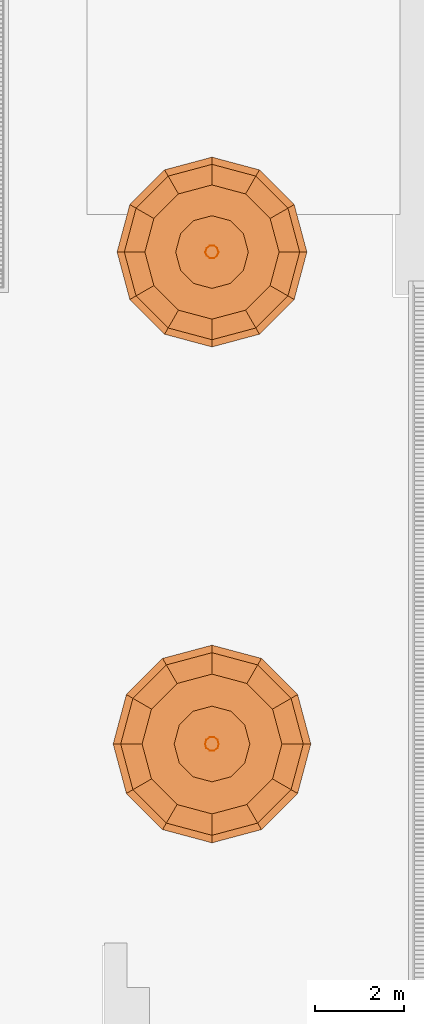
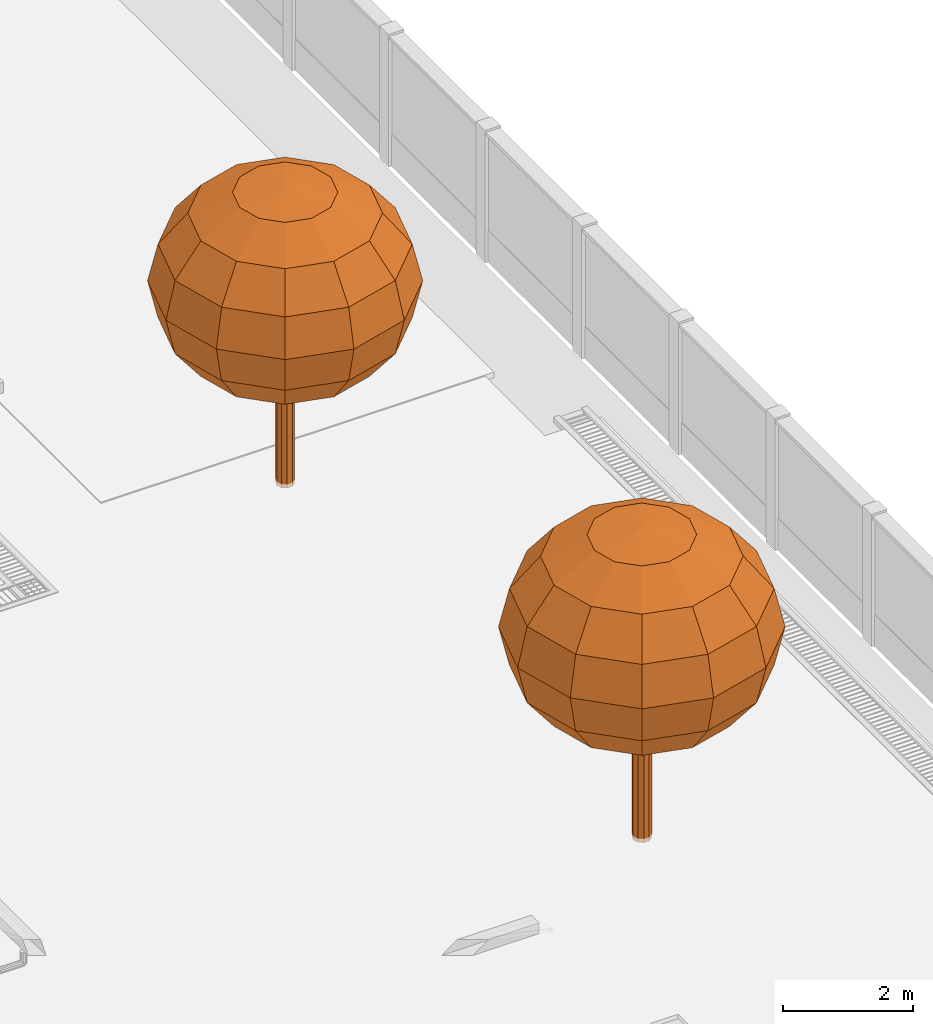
# One storey, part 155 of 166: 4 proxies.
"""IFC2X3 building model written with IfcOpenShell, lengths in metres."""

from ifc_helpers import new_model, si_unit, origin, origin_with_axes, place, context, subcontext, project, spatial, faceted_brep, element, save


model = new_model("IFC2X3")

# Units and contexts
model_context = context("Model", 3, precision=1e-05, world=origin_with_axes())
body_context = subcontext(model_context, "Body", "Model", "MODEL_VIEW")
ifc_project = project(units=[si_unit("LENGTHUNIT", "METRE"), si_unit("AREAUNIT", "SQUARE_METRE"), si_unit("VOLUMEUNIT", "CUBIC_METRE"), si_unit("PLANEANGLEUNIT", "RADIAN")], contexts=[model_context])

# Site, building, storey
site_placement = place(None, origin_with_axes())
site = spatial("IfcSite", under=ifc_project, at=site_placement, Name="Predio Los Mangos - Morales, San Martín", CompositionType="ELEMENT")
building_placement = place(site_placement, origin())
building = spatial("IfcBuilding", under=site, at=building_placement, Name="Hogar de Refugio Temporal", CompositionType="ELEMENT")
storey_placement = place(building_placement, origin())
storey = spatial("IfcBuildingStorey", under=building, at=storey_placement, Name="NIVEL 1 (NPT +0.00)", CompositionType="ELEMENT", Elevation=0.0)

# Proxies
proxy_1_placement = place(storey_placement, origin())
element("IfcBuildingElementProxy", 1, at=proxy_1_placement, inside=storey, Name="arbol_tronco", ObjectType="Árbol", context=body_context, shape_type="Brep", body=[
    faceted_brep([(66.1538, 45.0, 0.0), (66.1244, 45.0904, 0.0), (66.1244, 45.0904, 2.3063), (66.0475, 45.1462, 0.0), (66.0475, 45.1462, 2.3063), (65.9525, 45.1462, 0.0), (65.9525, 45.1462, 2.3063), (65.8756, 45.0904, 0.0), (65.8756, 45.0904, 2.3063), (65.8462, 45.0, 0.0), (65.8462, 45.0, 2.3063), (65.8756, 44.9096, 0.0), (65.8756, 44.9096, 2.3063), (65.9525, 44.8538, 0.0), (65.9525, 44.8538, 2.3063), (66.0475, 44.8538, 0.0), (66.0475, 44.8538, 2.3063), (66.1244, 44.9096, 0.0), (66.1244, 44.9096, 2.3063), (66.1538, 45.0, 2.3063)], [[[0, 1, 2]], [[1, 3, 4]], [[3, 5, 6]], [[5, 7, 8]], [[7, 9, 10]], [[9, 11, 12]], [[11, 13, 14]], [[13, 15, 16]], [[15, 17, 18]], [[17, 0, 19]], [[0, 2, 19]], [[1, 4, 2]], [[3, 6, 4]], [[5, 8, 6]], [[7, 10, 8]], [[9, 12, 10]], [[11, 14, 12]], [[13, 16, 14]], [[15, 18, 16]], [[17, 19, 18]]]),
])
proxy_2_placement = place(storey_placement, origin())
element("IfcBuildingElementProxy", 2, at=proxy_2_placement, inside=storey, Name="arbol_copa", ObjectType="Árbol", context=body_context, shape_type="Brep", body=[
    faceted_brep([(66.0, 45.0, 5.8426), (66.0, 45.0, 5.8426), (66.7325, 45.4229, 5.6996), (66.8458, 45.0, 5.6996), (66.0, 45.0, 5.8426), (66.4229, 45.7325, 5.6996), (66.0, 45.0, 5.8426), (66.0, 45.8458, 5.6996), (66.0, 45.0, 5.8426), (65.5771, 45.7325, 5.6996), (66.0, 45.0, 5.8426), (65.2675, 45.4229, 5.6996), (66.0, 45.0, 5.8426), (65.1542, 45.0, 5.6996), (66.0, 45.0, 5.8426), (65.2675, 44.5771, 5.6996), (66.0, 45.0, 5.8426), (65.5771, 44.2675, 5.6996), (66.0, 45.0, 5.8426), (66.0, 44.1542, 5.6996), (66.0, 45.0, 5.8426), (66.4229, 44.2675, 5.6996), (66.0, 45.0, 5.8426), (66.7325, 44.5771, 5.6996), (67.3535, 45.7814, 5.2923), (67.5628, 45.0, 5.2923), (66.7814, 46.3535, 5.2923), (66.0, 46.5628, 5.2923), (65.2186, 46.3535, 5.2923), (64.6465, 45.7814, 5.2923), (64.4372, 45.0, 5.2923), (64.6465, 44.2186, 5.2923), (65.2186, 43.6465, 5.2923), (66.0, 43.4372, 5.2923), (66.7814, 43.6465, 5.2923), (67.3535, 44.2186, 5.2923), (67.7684, 46.021, 4.6829), (68.0419, 45.0, 4.6829), (67.021, 46.7684, 4.6829), (66.0, 47.0419, 4.6829), (64.979, 46.7684, 4.6829), (64.2316, 46.021, 4.6829), (63.9581, 45.0, 4.6829), (64.2316, 43.979, 4.6829), (64.979, 43.2316, 4.6829), (66.0, 42.9581, 4.6829), (67.021, 43.2316, 4.6829), (67.7684, 43.979, 4.6829), (67.9141, 46.1051, 3.9639), (68.2102, 45.0, 3.9639), (67.1051, 46.9141, 3.9639), (66.0, 47.2102, 3.9639), (64.8949, 46.9141, 3.9639), (64.0859, 46.1051, 3.9639), (63.7898, 45.0, 3.9639), (64.0859, 43.8949, 3.9639), (64.8949, 43.0859, 3.9639), (66.0, 42.7898, 3.9639), (67.1051, 43.0859, 3.9639), (67.9141, 43.8949, 3.9639), (67.7684, 46.021, 3.245), (68.0419, 45.0, 3.245), (67.021, 46.7684, 3.245), (66.0, 47.0419, 3.245), (64.979, 46.7684, 3.245), (64.2316, 46.021, 3.245), (63.9581, 45.0, 3.245), (64.2316, 43.979, 3.245), (64.979, 43.2316, 3.245), (66.0, 42.9581, 3.245), (67.021, 43.2316, 3.245), (67.7684, 43.979, 3.245), (67.3535, 45.7814, 2.6355), (67.5628, 45.0, 2.6355), (66.7814, 46.3535, 2.6355), (66.0, 46.5628, 2.6355), (65.2186, 46.3535, 2.6355), (64.6465, 45.7814, 2.6355), (64.4372, 45.0, 2.6355), (64.6465, 44.2186, 2.6355), (65.2186, 43.6465, 2.6355), (66.0, 43.4372, 2.6355), (66.7814, 43.6465, 2.6355), (67.3535, 44.2186, 2.6355), (66.7325, 45.4229, 2.2283), (66.8458, 45.0, 2.2283), (66.4229, 45.7325, 2.2283), (66.0, 45.8458, 2.2283), (65.5771, 45.7325, 2.2283), (65.2675, 45.4229, 2.2283), (65.1542, 45.0, 2.2283), (65.2675, 44.5771, 2.2283), (65.5771, 44.2675, 2.2283), (66.0, 44.1542, 2.2283), (66.4229, 44.2675, 2.2283), (66.7325, 44.5771, 2.2283), (66.0, 45.0, 2.0853), (66.0, 45.0, 2.0853), (66.0, 45.0, 2.0853), (66.0, 45.0, 2.0853), (66.0, 45.0, 2.0853), (66.0, 45.0, 2.0853), (66.0, 45.0, 2.0853), (66.0, 45.0, 2.0853), (66.0, 45.0, 2.0853), (66.0, 45.0, 2.0853), (66.0, 45.0, 2.0853), (66.0, 45.0, 2.0853)], [[[0, 1, 2]], [[0, 2, 3]], [[1, 4, 5]], [[1, 5, 2]], [[4, 6, 7]], [[4, 7, 5]], [[6, 8, 9]], [[6, 9, 7]], [[8, 10, 11]], [[8, 11, 9]], [[10, 12, 13]], [[10, 13, 11]], [[12, 14, 15]], [[12, 15, 13]], [[14, 16, 17]], [[14, 17, 15]], [[16, 18, 19]], [[16, 19, 17]], [[18, 20, 21]], [[18, 21, 19]], [[20, 22, 23]], [[20, 23, 21]], [[22, 0, 3]], [[22, 3, 23]], [[3, 2, 24]], [[3, 24, 25]], [[2, 5, 26]], [[2, 26, 24]], [[5, 7, 27]], [[5, 27, 26]], [[7, 9, 28]], [[7, 28, 27]], [[9, 11, 29]], [[9, 29, 28]], [[11, 13, 30]], [[11, 30, 29]], [[13, 15, 31]], [[13, 31, 30]], [[15, 17, 32]], [[15, 32, 31]], [[17, 19, 33]], [[17, 33, 32]], [[19, 21, 34]], [[19, 34, 33]], [[21, 23, 35]], [[21, 35, 34]], [[23, 3, 25]], [[23, 25, 35]], [[25, 24, 36]], [[25, 36, 37]], [[24, 26, 38]], [[24, 38, 36]], [[26, 27, 39]], [[26, 39, 38]], [[27, 28, 40]], [[27, 40, 39]], [[28, 29, 41]], [[28, 41, 40]], [[29, 30, 42]], [[29, 42, 41]], [[30, 31, 43]], [[30, 43, 42]], [[31, 32, 44]], [[31, 44, 43]], [[32, 33, 45]], [[32, 45, 44]], [[33, 34, 46]], [[33, 46, 45]], [[34, 35, 47]], [[34, 47, 46]], [[35, 25, 37]], [[35, 37, 47]], [[37, 36, 48]], [[37, 48, 49]], [[36, 38, 50]], [[36, 50, 48]], [[38, 39, 51]], [[38, 51, 50]], [[39, 40, 52]], [[39, 52, 51]], [[40, 41, 53]], [[40, 53, 52]], [[41, 42, 54]], [[41, 54, 53]], [[42, 43, 55]], [[42, 55, 54]], [[43, 44, 56]], [[43, 56, 55]], [[44, 45, 57]], [[44, 57, 56]], [[45, 46, 58]], [[45, 58, 57]], [[46, 47, 59]], [[46, 59, 58]], [[47, 37, 49]], [[47, 49, 59]], [[49, 48, 60]], [[49, 60, 61]], [[48, 50, 62]], [[48, 62, 60]], [[50, 51, 63]], [[50, 63, 62]], [[51, 52, 64]], [[51, 64, 63]], [[52, 53, 65]], [[52, 65, 64]], [[53, 54, 66]], [[53, 66, 65]], [[54, 55, 67]], [[54, 67, 66]], [[55, 56, 68]], [[55, 68, 67]], [[56, 57, 69]], [[56, 69, 68]], [[57, 58, 70]], [[57, 70, 69]], [[58, 59, 71]], [[58, 71, 70]], [[59, 49, 61]], [[59, 61, 71]], [[61, 60, 72]], [[61, 72, 73]], [[60, 62, 74]], [[60, 74, 72]], [[62, 63, 75]], [[62, 75, 74]], [[63, 64, 76]], [[63, 76, 75]], [[64, 65, 77]], [[64, 77, 76]], [[65, 66, 78]], [[65, 78, 77]], [[66, 67, 79]], [[66, 79, 78]], [[67, 68, 80]], [[67, 80, 79]], [[68, 69, 81]], [[68, 81, 80]], [[69, 70, 82]], [[69, 82, 81]], [[70, 71, 83]], [[70, 83, 82]], [[71, 61, 73]], [[71, 73, 83]], [[73, 72, 84]], [[73, 84, 85]], [[72, 74, 86]], [[72, 86, 84]], [[74, 75, 87]], [[74, 87, 86]], [[75, 76, 88]], [[75, 88, 87]], [[76, 77, 89]], [[76, 89, 88]], [[77, 78, 90]], [[77, 90, 89]], [[78, 79, 91]], [[78, 91, 90]], [[79, 80, 92]], [[79, 92, 91]], [[80, 81, 93]], [[80, 93, 92]], [[81, 82, 94]], [[81, 94, 93]], [[82, 83, 95]], [[82, 95, 94]], [[83, 73, 85]], [[83, 85, 95]], [[85, 84, 96]], [[85, 96, 97]], [[84, 86, 98]], [[84, 98, 96]], [[86, 87, 99]], [[86, 99, 98]], [[87, 88, 100]], [[87, 100, 99]], [[88, 89, 101]], [[88, 101, 100]], [[89, 90, 102]], [[89, 102, 101]], [[90, 91, 103]], [[90, 103, 102]], [[91, 92, 104]], [[91, 104, 103]], [[92, 93, 105]], [[92, 105, 104]], [[93, 94, 106]], [[93, 106, 105]], [[94, 95, 107]], [[94, 107, 106]], [[95, 85, 97]], [[95, 97, 107]]]),
])
proxy_3_placement = place(storey_placement, origin())
element("IfcBuildingElementProxy", 3, at=proxy_3_placement, inside=storey, Name="arbol_tronco", ObjectType="Árbol", context=body_context, shape_type="Brep", body=[
    faceted_brep([(66.1476, 56.0, 0.0), (66.1194, 56.0868, 0.0), (66.1194, 56.0868, 2.2143), (66.0456, 56.1404, 0.0), (66.0456, 56.1404, 2.2143), (65.9544, 56.1404, 0.0), (65.9544, 56.1404, 2.2143), (65.8806, 56.0868, 0.0), (65.8806, 56.0868, 2.2143), (65.8524, 56.0, 0.0), (65.8524, 56.0, 2.2143), (65.8806, 55.9132, 0.0), (65.8806, 55.9132, 2.2143), (65.9544, 55.8596, 0.0), (65.9544, 55.8596, 2.2143), (66.0456, 55.8596, 0.0), (66.0456, 55.8596, 2.2143), (66.1194, 55.9132, 0.0), (66.1194, 55.9132, 2.2143), (66.1476, 56.0, 2.2143)], [[[0, 1, 2]], [[1, 3, 4]], [[3, 5, 6]], [[5, 7, 8]], [[7, 9, 10]], [[9, 11, 12]], [[11, 13, 14]], [[13, 15, 16]], [[15, 17, 18]], [[17, 0, 19]], [[0, 2, 19]], [[1, 4, 2]], [[3, 6, 4]], [[5, 8, 6]], [[7, 10, 8]], [[9, 12, 10]], [[11, 14, 12]], [[13, 16, 14]], [[15, 18, 16]], [[17, 19, 18]]]),
])
proxy_4_placement = place(storey_placement, origin())
element("IfcBuildingElementProxy", 4, at=proxy_4_placement, inside=storey, Name="arbol_copa", ObjectType="Árbol", context=body_context, shape_type="Brep", body=[
    faceted_brep([(66.0, 56.0, 5.6096), (66.0, 56.0, 5.6096), (66.7033, 56.406, 5.4723), (66.8121, 56.0, 5.4723), (66.0, 56.0, 5.6096), (66.406, 56.7033, 5.4723), (66.0, 56.0, 5.6096), (66.0, 56.8121, 5.4723), (66.0, 56.0, 5.6096), (65.594, 56.7033, 5.4723), (66.0, 56.0, 5.6096), (65.2967, 56.406, 5.4723), (66.0, 56.0, 5.6096), (65.1879, 56.0, 5.4723), (66.0, 56.0, 5.6096), (65.2967, 55.594, 5.4723), (66.0, 56.0, 5.6096), (65.594, 55.2967, 5.4723), (66.0, 56.0, 5.6096), (66.0, 55.1879, 5.4723), (66.0, 56.0, 5.6096), (66.406, 55.2967, 5.4723), (66.0, 56.0, 5.6096), (66.7033, 55.594, 5.4723), (67.2995, 56.7503, 5.0813), (67.5005, 56.0, 5.0813), (66.7503, 57.2995, 5.0813), (66.0, 57.5005, 5.0813), (65.2497, 57.2995, 5.0813), (64.7005, 56.7503, 5.0813), (64.4995, 56.0, 5.0813), (64.7005, 55.2497, 5.0813), (65.2497, 54.7005, 5.0813), (66.0, 54.4995, 5.0813), (66.7503, 54.7005, 5.0813), (67.2995, 55.2497, 5.0813), (67.6979, 56.9803, 4.4961), (67.9605, 56.0, 4.4961), (66.9803, 57.6979, 4.4961), (66.0, 57.9605, 4.4961), (65.0197, 57.6979, 4.4961), (64.3021, 56.9803, 4.4961), (64.0395, 56.0, 4.4961), (64.3021, 55.0197, 4.4961), (65.0197, 54.3021, 4.4961), (66.0, 54.0395, 4.4961), (66.9803, 54.3021, 4.4961), (67.6979, 55.0197, 4.4961), (67.8377, 57.061, 3.8058), (68.122, 56.0, 3.8058), (67.061, 57.8377, 3.8058), (66.0, 58.122, 3.8058), (64.939, 57.8377, 3.8058), (64.1623, 57.061, 3.8058), (63.878, 56.0, 3.8058), (64.1623, 54.939, 3.8058), (64.939, 54.1623, 3.8058), (66.0, 53.878, 3.8058), (67.061, 54.1623, 3.8058), (67.8377, 54.939, 3.8058), (67.6979, 56.9803, 3.1156), (67.9605, 56.0, 3.1156), (66.9803, 57.6979, 3.1156), (66.0, 57.9605, 3.1156), (65.0197, 57.6979, 3.1156), (64.3021, 56.9803, 3.1156), (64.0395, 56.0, 3.1156), (64.3021, 55.0197, 3.1156), (65.0197, 54.3021, 3.1156), (66.0, 54.0395, 3.1156), (66.9803, 54.3021, 3.1156), (67.6979, 55.0197, 3.1156), (67.2995, 56.7503, 2.5304), (67.5005, 56.0, 2.5304), (66.7503, 57.2995, 2.5304), (66.0, 57.5005, 2.5304), (65.2497, 57.2995, 2.5304), (64.7005, 56.7503, 2.5304), (64.4995, 56.0, 2.5304), (64.7005, 55.2497, 2.5304), (65.2497, 54.7005, 2.5304), (66.0, 54.4995, 2.5304), (66.7503, 54.7005, 2.5304), (67.2995, 55.2497, 2.5304), (66.7033, 56.406, 2.1394), (66.8121, 56.0, 2.1394), (66.406, 56.7033, 2.1394), (66.0, 56.8121, 2.1394), (65.594, 56.7033, 2.1394), (65.2967, 56.406, 2.1394), (65.1879, 56.0, 2.1394), (65.2967, 55.594, 2.1394), (65.594, 55.2967, 2.1394), (66.0, 55.1879, 2.1394), (66.406, 55.2967, 2.1394), (66.7033, 55.594, 2.1394), (66.0, 56.0, 2.0021), (66.0, 56.0, 2.0021), (66.0, 56.0, 2.0021), (66.0, 56.0, 2.0021), (66.0, 56.0, 2.0021), (66.0, 56.0, 2.0021), (66.0, 56.0, 2.0021), (66.0, 56.0, 2.0021), (66.0, 56.0, 2.0021), (66.0, 56.0, 2.0021), (66.0, 56.0, 2.0021), (66.0, 56.0, 2.0021)], [[[0, 1, 2]], [[0, 2, 3]], [[1, 4, 5]], [[1, 5, 2]], [[4, 6, 7]], [[4, 7, 5]], [[6, 8, 9]], [[6, 9, 7]], [[8, 10, 11]], [[8, 11, 9]], [[10, 12, 13]], [[10, 13, 11]], [[12, 14, 15]], [[12, 15, 13]], [[14, 16, 17]], [[14, 17, 15]], [[16, 18, 19]], [[16, 19, 17]], [[18, 20, 21]], [[18, 21, 19]], [[20, 22, 23]], [[20, 23, 21]], [[22, 0, 3]], [[22, 3, 23]], [[3, 2, 24]], [[3, 24, 25]], [[2, 5, 26]], [[2, 26, 24]], [[5, 7, 27]], [[5, 27, 26]], [[7, 9, 28]], [[7, 28, 27]], [[9, 11, 29]], [[9, 29, 28]], [[11, 13, 30]], [[11, 30, 29]], [[13, 15, 31]], [[13, 31, 30]], [[15, 17, 32]], [[15, 32, 31]], [[17, 19, 33]], [[17, 33, 32]], [[19, 21, 34]], [[19, 34, 33]], [[21, 23, 35]], [[21, 35, 34]], [[23, 3, 25]], [[23, 25, 35]], [[25, 24, 36]], [[25, 36, 37]], [[24, 26, 38]], [[24, 38, 36]], [[26, 27, 39]], [[26, 39, 38]], [[27, 28, 40]], [[27, 40, 39]], [[28, 29, 41]], [[28, 41, 40]], [[29, 30, 42]], [[29, 42, 41]], [[30, 31, 43]], [[30, 43, 42]], [[31, 32, 44]], [[31, 44, 43]], [[32, 33, 45]], [[32, 45, 44]], [[33, 34, 46]], [[33, 46, 45]], [[34, 35, 47]], [[34, 47, 46]], [[35, 25, 37]], [[35, 37, 47]], [[37, 36, 48]], [[37, 48, 49]], [[36, 38, 50]], [[36, 50, 48]], [[38, 39, 51]], [[38, 51, 50]], [[39, 40, 52]], [[39, 52, 51]], [[40, 41, 53]], [[40, 53, 52]], [[41, 42, 54]], [[41, 54, 53]], [[42, 43, 55]], [[42, 55, 54]], [[43, 44, 56]], [[43, 56, 55]], [[44, 45, 57]], [[44, 57, 56]], [[45, 46, 58]], [[45, 58, 57]], [[46, 47, 59]], [[46, 59, 58]], [[47, 37, 49]], [[47, 49, 59]], [[49, 48, 60]], [[49, 60, 61]], [[48, 50, 62]], [[48, 62, 60]], [[50, 51, 63]], [[50, 63, 62]], [[51, 52, 64]], [[51, 64, 63]], [[52, 53, 65]], [[52, 65, 64]], [[53, 54, 66]], [[53, 66, 65]], [[54, 55, 67]], [[54, 67, 66]], [[55, 56, 68]], [[55, 68, 67]], [[56, 57, 69]], [[56, 69, 68]], [[57, 58, 70]], [[57, 70, 69]], [[58, 59, 71]], [[58, 71, 70]], [[59, 49, 61]], [[59, 61, 71]], [[61, 60, 72]], [[61, 72, 73]], [[60, 62, 74]], [[60, 74, 72]], [[62, 63, 75]], [[62, 75, 74]], [[63, 64, 76]], [[63, 76, 75]], [[64, 65, 77]], [[64, 77, 76]], [[65, 66, 78]], [[65, 78, 77]], [[66, 67, 79]], [[66, 79, 78]], [[67, 68, 80]], [[67, 80, 79]], [[68, 69, 81]], [[68, 81, 80]], [[69, 70, 82]], [[69, 82, 81]], [[70, 71, 83]], [[70, 83, 82]], [[71, 61, 73]], [[71, 73, 83]], [[73, 72, 84]], [[73, 84, 85]], [[72, 74, 86]], [[72, 86, 84]], [[74, 75, 87]], [[74, 87, 86]], [[75, 76, 88]], [[75, 88, 87]], [[76, 77, 89]], [[76, 89, 88]], [[77, 78, 90]], [[77, 90, 89]], [[78, 79, 91]], [[78, 91, 90]], [[79, 80, 92]], [[79, 92, 91]], [[80, 81, 93]], [[80, 93, 92]], [[81, 82, 94]], [[81, 94, 93]], [[82, 83, 95]], [[82, 95, 94]], [[83, 73, 85]], [[83, 85, 95]], [[85, 84, 96]], [[85, 96, 97]], [[84, 86, 98]], [[84, 98, 96]], [[86, 87, 99]], [[86, 99, 98]], [[87, 88, 100]], [[87, 100, 99]], [[88, 89, 101]], [[88, 101, 100]], [[89, 90, 102]], [[89, 102, 101]], [[90, 91, 103]], [[90, 103, 102]], [[91, 92, 104]], [[91, 104, 103]], [[92, 93, 105]], [[92, 105, 104]], [[93, 94, 106]], [[93, 106, 105]], [[94, 95, 107]], [[94, 107, 106]], [[95, 85, 97]], [[95, 97, 107]]]),
])

save(model, "model.ifc")
